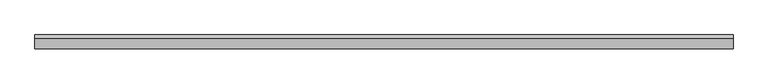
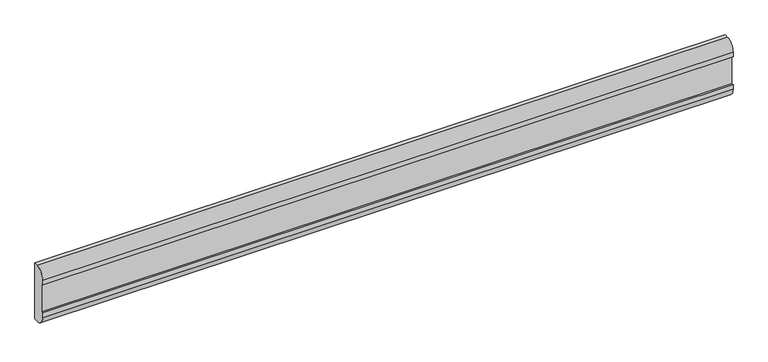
"""IFC4 building model written with IfcOpenShell, lengths in millimetres: furniture geometry, BIMHealth-Dado_Trunking_Recessed_Non-Wall-Hosted-LOD2A-v1 : BIMHealth-Dado_Trunking_Recessed_Non-Wall-Hosted-LOD2A-v1."""

from ifc_helpers import new_model, si_unit, point, frame, frame_2d, origin, place, context, project, spatial, polyline, circle_curve, trimmed, segment, composite_curve, outline, extrude, source, transform, mapped, element, save


def furniture_9396af71(model_context):
    return source(origin(), model_context, "Body", "SweptSolid", [
        extrude(outline(composite_curve([segment(polyline([(0.0, 1100.0), (-20.0, 1100.0)]), True, "CONTINUOUS"), segment(trimmed(circle_curve(frame_2d((-20.0, 1150.0)), 50.0), [point((-20.0, 1100.0))], [point((-70.0, 1150.0))], False, "CARTESIAN"), True, "CONTINUOUS"), segment(polyline([(-70.0, 1150.0), (-70.0, 1175.0), (-60.0, 1175.0), (-60.0, 1325.0), (-70.0, 1325.0), (-70.0, 1350.0)]), True, "CONTINUOUS"), segment(trimmed(circle_curve(frame_2d((-20.0, 1350.0)), 50.0), [point((-70.0, 1350.0))], [point((-20.0, 1400.0))], False, "CARTESIAN"), True, "CONTINUOUS"), segment(polyline([(-20.0, 1400.0), (0.0, 1400.0), (0.0, 1100.0)]), True, "CONTINUOUS")], self_intersect=False)), frame((-1750.0, 0.0, 0.0), z_axis=(1.0, 0.0, 0.0), x_axis=(0.0, 1.0, 0.0)), (0.0, 0.0, 1.0), 3500.0),
    ])


if __name__ == "__main__":
    model = new_model("IFC4")
    model_context = context("Model", 3, world=origin())
    ifc_project = project(units=[si_unit("LENGTHUNIT", "METRE", prefix="MILLI")], contexts=[model_context])
    site = spatial("IfcSite", under=ifc_project)
    building = spatial("IfcBuilding", under=site)
    placement = place(None, origin())
    furniture_shape = furniture_9396af71(model_context)
    element("IfcFurniture", 1, ObjectType="BIMHealth-Dado_Trunking_Recessed_Non-Wall-Hosted-LOD2A-v1 : BIMHealth-Dado_Trunking_Recessed_Non-Wall-Hosted-LOD2A-v1", at=placement, inside=building, context=model_context, shape_type="MappedRepresentation", body=[
        mapped(furniture_shape, transform((0.0, 0.0, 0.0), x_axis=(1.0, 0.0, 0.0), y_axis=(0.0, 1.0, 0.0), z_axis=(0.0, 0.0, 1.0))),
    ])
    save(model, "model.ifc")
